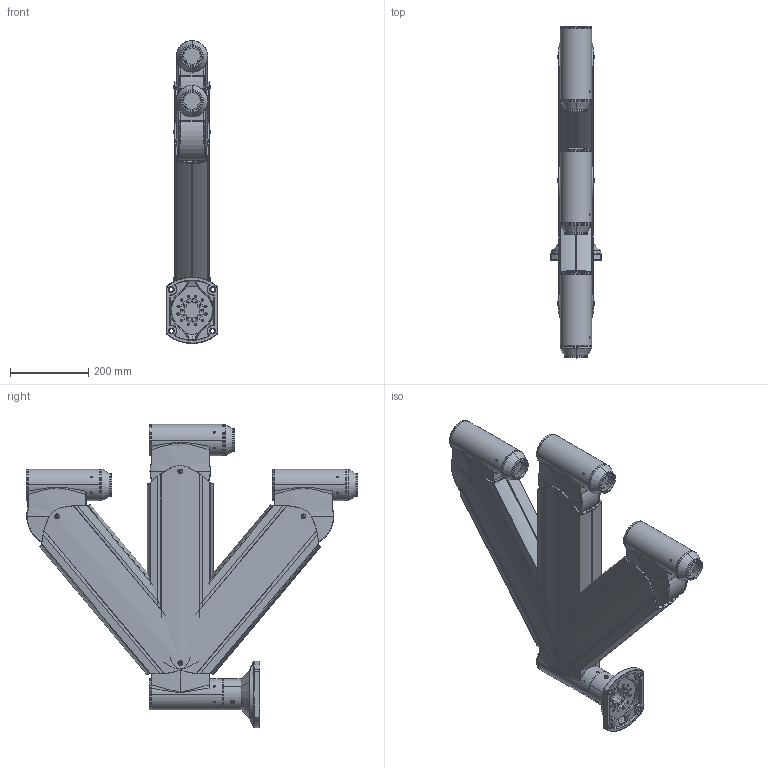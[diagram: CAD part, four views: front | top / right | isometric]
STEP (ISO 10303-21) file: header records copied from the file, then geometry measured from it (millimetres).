
FILE_DESCRIPTION (( 'STEP AP214' ), '1' );
FILE_NAME ('5262X-51XXX-XXXXXXX.STEP', '2021-03-15T10:51:48', ( '' ), ( '' ), 'SwSTEP 2.0', 'SolidWorks 2018', '' );
FILE_SCHEMA (( 'AUTOMOTIVE_DESIGN' ));
Length unit declared in the file: millimetre
Products named in the file (5): 000-003-8-02889; 000-003-8-02947; 000-003-8-02891; 5262X-51XXX-XXXXXXX; 000-003-8-02890
Assembly tree (4 placements, depth 2):
  5262X-51XXX-XXXXXXX
    000-003-8-02947
    000-003-8-02889
    000-003-8-02890
    000-003-8-02891
Bounding box: 130 x 848.93 x 775 mm (x, y, z)
Volume: 6142124.6 mm3; surface area: 3071741.2 mm2
Topology: 77 solids, 92 shells, 6040 faces, 15041 edges, 9205 vertices
Faces by surface type: cylinder 2188, bspline 1395, plane 1281, torus 624, cone 516, sphere 36
Entity records: 287294 total; most frequent: CARTESIAN_POINT 84616, ORIENTED_EDGE 29766, DIRECTION 26775, EDGE_CURVE 14905, AXIS2_PLACEMENT_3D 11039, VERTEX_POINT 9204, EDGE_LOOP 6617, CIRCLE 6386
